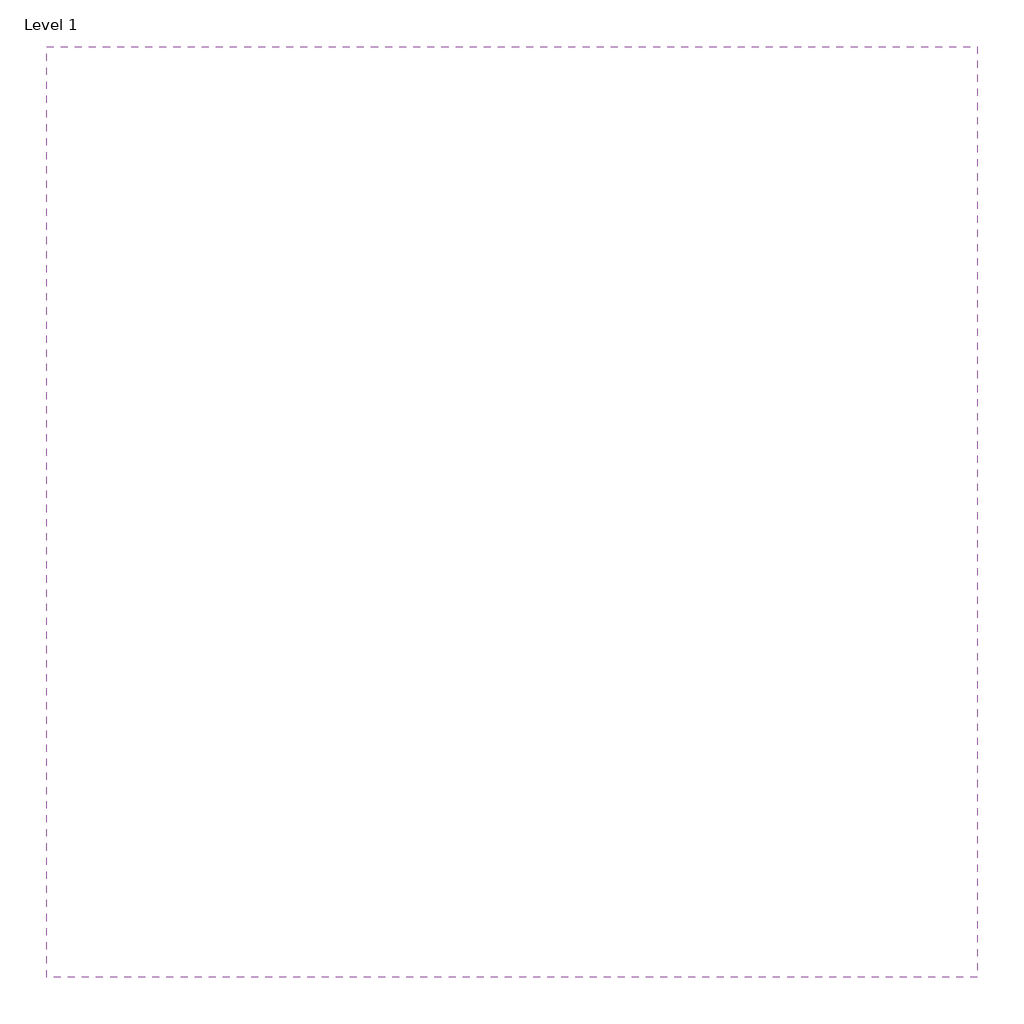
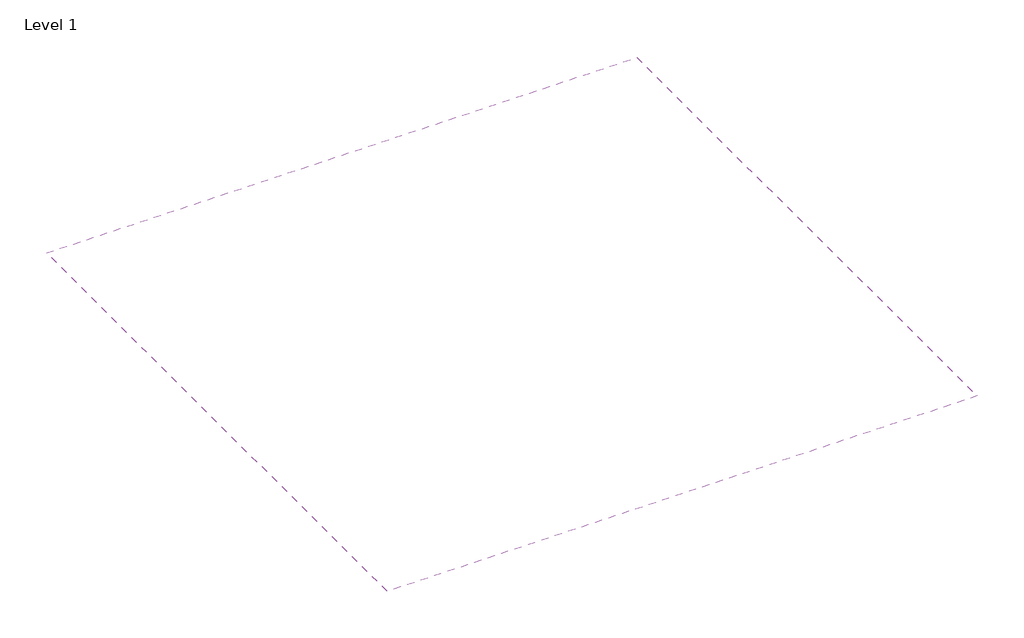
# One storey: 1 covering.
"""IFC4 building model written with IfcOpenShell, lengths in millimetres."""

import ifcopenshell
import ifcopenshell.guid

model = None  # the IFC model being written
_history = None  # IfcOwnerHistory: only IFC2X3 demands one
_inside = {}  # id of a spatial element -> (the spatial element, [elements in it])
_under = {}  # id of a project, library or spatial element -> (it, [spatial elements below it])
_declared = {}  # id of a project -> (the project, [libraries it declares])
_typed = {}  # id of a type object -> (the type object, [elements of that type])
_made_of = {}  # id of a material, layer set ... -> (it, [elements and type objects made of it])


def new_model(schema):
    """Start an empty IFC model of exactly this schema.

    Asked for "IFC4X3", IfcOpenShell would pick the latest addendum, in which some entities
    have other attributes; the version numbers below select the first issue.
    IFC2X3 requires an IfcOwnerHistory on every rooted entity: one is made here for all.
    """
    global model, _history
    if schema == "IFC4X3":
        model = ifcopenshell.file(schema_version=(4, 3, 0, 0))
    else:
        model = ifcopenshell.file(schema=schema)
    _inside.clear()
    _under.clear()
    _declared.clear()
    _typed.clear()
    _made_of.clear()
    _history = None
    if model.schema == "IFC2X3":
        org = make("IfcOrganization", Name="unknown")
        user = make(
            "IfcPersonAndOrganization",
            ThePerson=make("IfcPerson", FamilyName="unknown"),
            TheOrganization=org,
        )
        app = make(
            "IfcApplication",
            ApplicationDeveloper=org,
            Version="unknown",
            ApplicationFullName="unknown",
            ApplicationIdentifier="unknown",
        )
        _history = make(
            "IfcOwnerHistory",
            OwningUser=user,
            OwningApplication=app,
            ChangeAction="ADDED",
            CreationDate=0,
        )
    return model


def make(cls, **values):
    """One entity of the class cls with the attributes given. An attribute that is None is left unset."""
    return model.create_entity(
        cls, **{name: value for name, value in values.items() if value is not None}
    )


def rooted(cls, **values):
    """An entity with a GlobalId (a new one), such as an element, a storey or a relation."""
    return make(cls, GlobalId=ifcopenshell.guid.new(), OwnerHistory=_history, **values)


def si_unit(unit_type, name, prefix=None):
    """IfcSIUnit, for example si_unit("LENGTHUNIT", "METRE", prefix="MILLI")."""
    return make("IfcSIUnit", UnitType=unit_type, Prefix=prefix, Name=name)


def assignment(units):
    """IfcUnitAssignment: the units of a project."""
    return None if units is None else make("IfcUnitAssignment", Units=units)


def point(xyz):
    """IfcCartesianPoint."""
    return None if xyz is None else make("IfcCartesianPoint", Coordinates=xyz)


def direction(xyz):
    """IfcDirection."""
    return None if xyz is None else make("IfcDirection", DirectionRatios=xyz)


def frame(location, z_axis=None, x_axis=None):
    """IfcAxis2Placement3D, a coordinate frame: its origin and axes. An axis left out is left unset."""
    return make(
        "IfcAxis2Placement3D",
        Location=point(location),
        Axis=direction(z_axis),
        RefDirection=direction(x_axis),
    )


def origin():
    """The frame at (0, 0, 0) with its axes left unset."""
    return frame((0.0, 0.0, 0.0))


def place(relative_to, where):
    """IfcLocalPlacement: puts the frame where relative to a parent placement (None: the world)."""
    return make(
        "IfcLocalPlacement", PlacementRelTo=relative_to, RelativePlacement=where
    )


def context(
    kind, dimensions, precision=None, world=None, true_north=None, identifier=None
):
    """IfcGeometricRepresentationContext, for example the 3D "Model" context."""
    return make(
        "IfcGeometricRepresentationContext",
        ContextIdentifier=identifier,
        ContextType=kind,
        CoordinateSpaceDimension=dimensions,
        Precision=precision,
        WorldCoordinateSystem=world,
        TrueNorth=true_north,
    )


def project(units=None, contexts=None):
    """IfcProject with its units and contexts."""
    return rooted(
        "IfcProject",
        Name="project",
        RepresentationContexts=contexts,
        UnitsInContext=assignment(units),
    )


def spatial(cls, under=None, at=None, **own):
    """A site, building, storey or space (cls), placed at a placement, below another one or the project."""
    s = rooted(cls, ObjectPlacement=at, **own)
    if under is not None:
        _under.setdefault(under.id(), (under, []))[1].append(s)
    return s


def polyline(points):
    """IfcPolyline through the points."""
    return make("IfcPolyline", Points=[point(p) for p in points])


def outline(outer, holes=None, kind="AREA"):
    """IfcArbitraryClosedProfileDef: a profile drawn as a closed curve; with holes, ...WithVoids."""
    if holes is None:
        return make("IfcArbitraryClosedProfileDef", ProfileType=kind, OuterCurve=outer)
    return make(
        "IfcArbitraryProfileDefWithVoids",
        ProfileType=kind,
        OuterCurve=outer,
        InnerCurves=holes,
    )


def extrude(swept, where, along, depth):
    """IfcExtrudedAreaSolid: the profile swept, set in the frame where, extruded along a direction by depth."""
    return make(
        "IfcExtrudedAreaSolid",
        SweptArea=swept,
        Position=where,
        ExtrudedDirection=direction(along),
        Depth=depth,
    )


def shape(context_of_items, identifier, shape_type, items):
    """IfcShapeRepresentation: the items that make up one representation, for example the "Body"."""
    return make(
        "IfcShapeRepresentation",
        ContextOfItems=context_of_items,
        RepresentationIdentifier=identifier,
        RepresentationType=shape_type,
        Items=items,
    )


def made_of(thing, what):
    """Note that an element or type object is made of a material, layer set ...; save() writes the relation."""
    if what is not None:
        _made_of.setdefault(what.id(), (what, []))[1].append(thing)
    return thing


def element(
    cls,
    number,
    at=None,
    inside=None,
    cuts=None,
    type_object=None,
    material=None,
    context=None,
    identifier="Body",
    shape_type=None,
    held_by="IfcProductDefinitionShape",
    body=None,
    shapes=None,
    **own,
):
    """One element of the class cls, such as IfcWall. Its Tag is "e" and its number.

    at: its placement. inside: the storey or other place that contains it. cuts: it is an
    opening in that element (IfcRelVoidsElement). A single representation is given by context,
    identifier, shape_type and body (its items); several are given by shapes. held_by: the class
    of the entity that holds the representations. save() writes the other relations.
    """
    e = rooted(cls, Tag="e%d" % number, ObjectPlacement=at, **own)
    if body is not None:
        shapes = [shape(context, identifier, shape_type, body)]
    if shapes is not None:
        e.Representation = make(held_by, Representations=shapes)
    if inside is not None:
        _inside.setdefault(inside.id(), (inside, []))[1].append(e)
    if cuts is not None:
        rooted(
            "IfcRelVoidsElement", RelatingBuildingElement=cuts, RelatedOpeningElement=e
        )
    if type_object is not None:
        _typed.setdefault(type_object.id(), (type_object, []))[1].append(e)
    return made_of(e, material)


def aggregate(whole, parts):
    """IfcRelAggregates: a whole, such as a stair, and the parts it consists of."""
    return rooted("IfcRelAggregates", RelatingObject=whole, RelatedObjects=parts)


def save(model, path):
    """Write the relations noted so far, then the file.

    IfcRelAggregates (storeys below a building ...), IfcRelContainedInSpatialStructure (elements
    in a storey), IfcRelDefinesByType, IfcRelAssociatesMaterial and IfcRelDeclares: one each for
    every whole, place, type object, material and project.
    """
    for whole, parts in _under.values():
        aggregate(whole, parts)
    for where, things in _inside.values():
        rooted(
            "IfcRelContainedInSpatialStructure",
            RelatedElements=things,
            RelatingStructure=where,
        )
    for kind, things in _typed.values():
        rooted("IfcRelDefinesByType", RelatedObjects=things, RelatingType=kind)
    for what, things in _made_of.values():
        rooted("IfcRelAssociatesMaterial", RelatedObjects=things, RelatingMaterial=what)
    for by, libraries in _declared.values():
        rooted("IfcRelDeclares", RelatingContext=by, RelatedDefinitions=libraries)
    model.write(path)


model = new_model("IFC4")

# Units and contexts
model_context = context("Model", 3, world=origin())
ifc_project = project(units=[si_unit("LENGTHUNIT", "METRE", prefix="MILLI")], contexts=[model_context])

# Site, building, storey
site = spatial("IfcSite", under=ifc_project)
building = spatial("IfcBuilding", under=site)
storey = spatial("IfcBuildingStorey", under=building, Name="Level 1", Elevation=0.0)

# Covering
placement = place(None, origin())
element("IfcCovering", 1, ObjectType="NBS_ArmstrongCeilingsLtd_UnitModularSuspendedCeilingSystem_DuneVector-Prelude24Exposed_600x600x19mm_GB", at=placement, inside=storey, context=model_context, shape_type="SweptSolid", body=[
    extrude(outline(polyline([(2400.0, 2600.0), (2400.0, 100.0), (-100.0, 100.0), (-100.0, 2600.0), (2400.0, 2600.0)])), frame((0.0, 0.0, 2600.0), z_axis=(0.0, 0.0, 1.0), x_axis=(1.0, 0.0, 0.0)), (0.0, 0.0, 1.0), 49.0),
])

save(model, "model.ifc")
